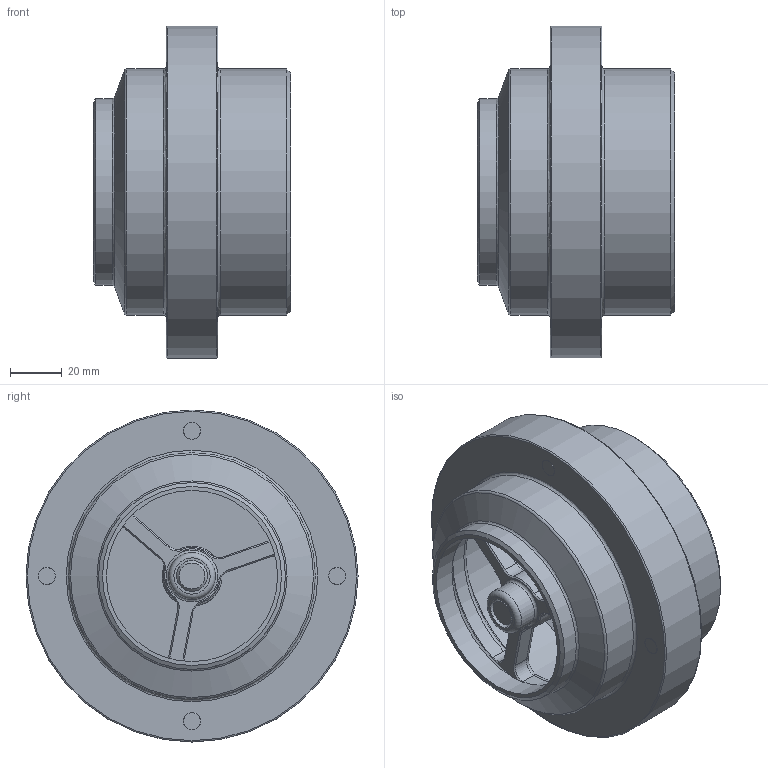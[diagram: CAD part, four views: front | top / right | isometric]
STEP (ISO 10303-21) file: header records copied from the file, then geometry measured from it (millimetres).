
FILE_DESCRIPTION((''),'2;1');
FILE_NAME('K:\2013 konstrukce\5xxxx\50810-ZPĚTNÁ VENTIL G-S\DN65\5081D-065.stp','2020-12-14T08:58:03',('konstrukce3'),(''),'Autodesk Inventor 2010','Autodesk Inventor 2010','');
FILE_SCHEMA(('AUTOMOTIVE_DESIGN { 1 0 10303 214 1 1 1 1 }'));
Length unit declared in the file: millimetre
Products named in the file (1): Součást12
Bounding box: 76 x 128 x 128 mm (x, y, z)
Volume: 308538.1 mm3; surface area: 87933.3 mm2
Topology: 8 solids, 8 shells, 225 faces, 485 edges, 295 vertices
Faces by surface type: plane 73, cylinder 49, cone 42, torus 31, bspline 30
Full cylindrical faces by diameter (mm): 8 x4, 12 x1, 13 x4, 18 x3, 59 x1, 60 x1, 66 x1, 68 x1, 71 x1, 72 x1, 81 x1, 90 x1, 94.5 x1, 95 x2, 102.5 x1, 128 x1
Entity records: 7529 total; most frequent: CARTESIAN_POINT 2890, DIRECTION 930, ORIENTED_EDGE 744, AXIS2_PLACEMENT_3D 411, EDGE_CURVE 372, EDGE_LOOP 352, VERTEX_POINT 272, STYLED_ITEM 233
